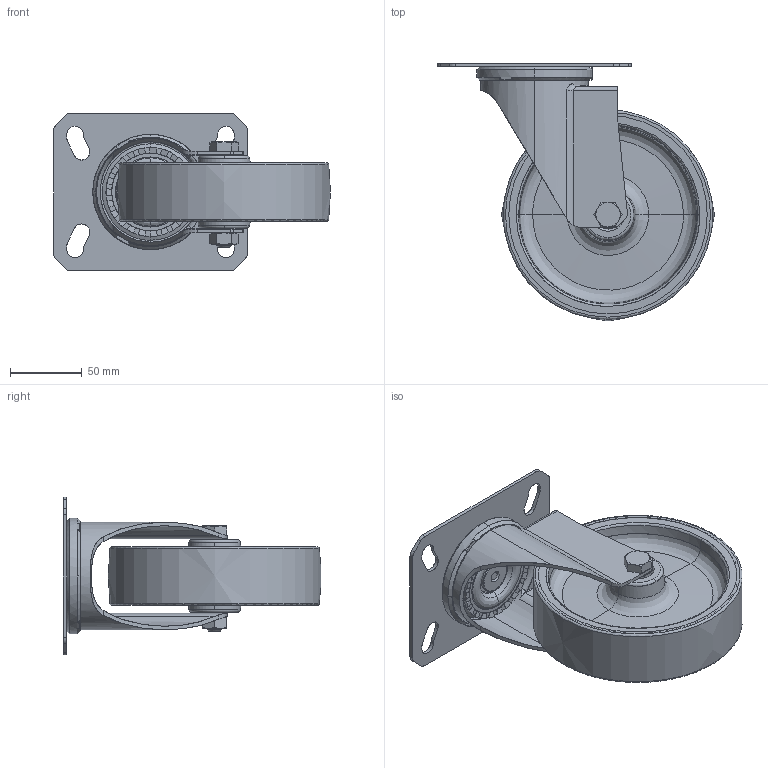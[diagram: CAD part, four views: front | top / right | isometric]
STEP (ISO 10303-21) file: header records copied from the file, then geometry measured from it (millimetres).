
FILE_DESCRIPTION(('STEP AP203'),'2;1');
FILE_NAME('21136.stp','2009-06-17T11:03:51',(''),(''),'2008.1.107','THINKDESIGN','');
FILE_SCHEMA(('CONFIG_CONTROL_DESIGN'));
Length unit declared in the file: millimetre
Bounding box: 192.8 x 179.46 x 110 mm (x, y, z)
Volume: 98264.2 mm3; surface area: 172954.7 mm2
Topology: 1 solids, 1 shells, 350 faces, 1848 edges, 1837 vertices
Faces by surface type: bspline 154, plane 125, cylinder 71
Entity records: 23451 total; most frequent: CARTESIAN_POINT 15593, COMPOSITE_CURVE_SEGMENT 1823, DIRECTION 1524, TRIMMED_CURVE 885, VECTOR 676, LINE 676, AXIS2_PLACEMENT_3D 424, OUTER_BOUNDARY_CURVE 343
